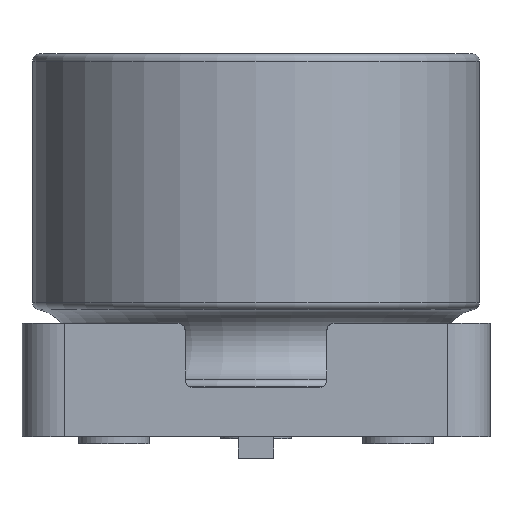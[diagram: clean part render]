
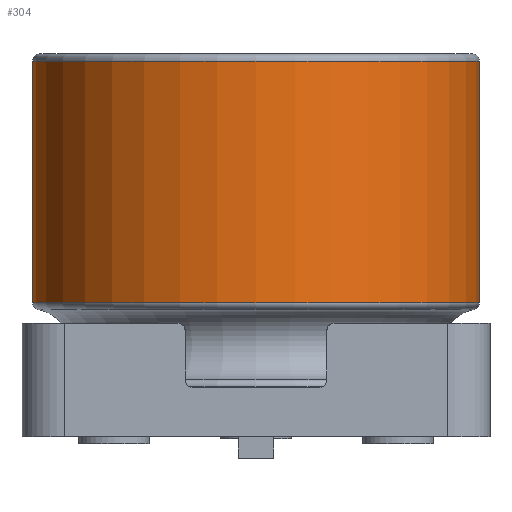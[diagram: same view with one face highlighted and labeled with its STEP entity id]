
A CAD part, left-side view. The second image highlights one B-rep face of the part: STEP entity #304.
In plain terms, the highlighted cylindrical face has radius 3.15 mm (diameter 6.3 mm), a full revolution.
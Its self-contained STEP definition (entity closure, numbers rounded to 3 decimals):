
#205=CYLINDRICAL_SURFACE('',#1434,3.15);
#244=FACE_BOUND('',#486,.T.);
#245=FACE_BOUND('',#487,.T.);
#304=ADVANCED_FACE('',(#244,#245),#205,.T.);
#486=EDGE_LOOP('',(#805));
#487=EDGE_LOOP('',(#806));
#556=CIRCLE('',#1432,3.15);
#557=CIRCLE('',#1433,3.15);
#805=ORIENTED_EDGE('',*,*,#1122,.T.);
#806=ORIENTED_EDGE('',*,*,#1123,.T.);
#973=VERTEX_POINT('',#2211);
#974=VERTEX_POINT('',#2213);
#1122=EDGE_CURVE('',#973,#973,#556,.T.);
#1123=EDGE_CURVE('',#974,#974,#557,.T.);
#1432=AXIS2_PLACEMENT_3D('',#2210,#1713,#1714);
#1433=AXIS2_PLACEMENT_3D('',#2212,#1715,#1716);
#1434=AXIS2_PLACEMENT_3D('',#2214,#1717,#1718);
#1713=DIRECTION('',(0.,0.,1.));
#1714=DIRECTION('',(1.,0.,0.));
#1715=DIRECTION('',(0.,0.,-1.));
#1716=DIRECTION('',(-1.,0.,0.));
#1717=DIRECTION('',(0.,0.,-1.));
#1718=DIRECTION('',(-1.,0.,0.));
#2210=CARTESIAN_POINT('',(0.,0.,1.892));
#2211=CARTESIAN_POINT('',(3.15,0.,1.892));
#2212=CARTESIAN_POINT('',(0.,0.,5.3));
#2213=CARTESIAN_POINT('',(-3.15,0.,5.3));
#2214=CARTESIAN_POINT('',(0.,0.,0.));
